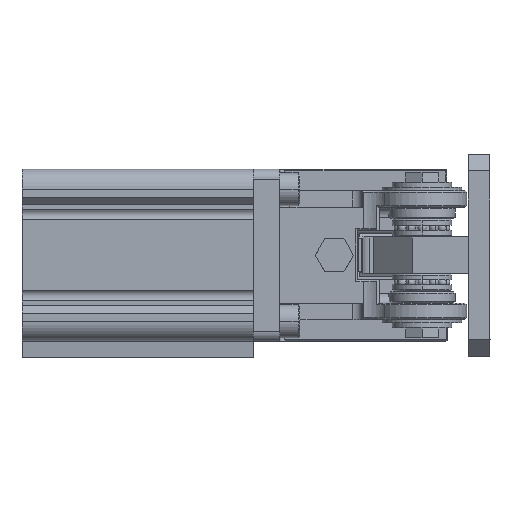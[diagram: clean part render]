
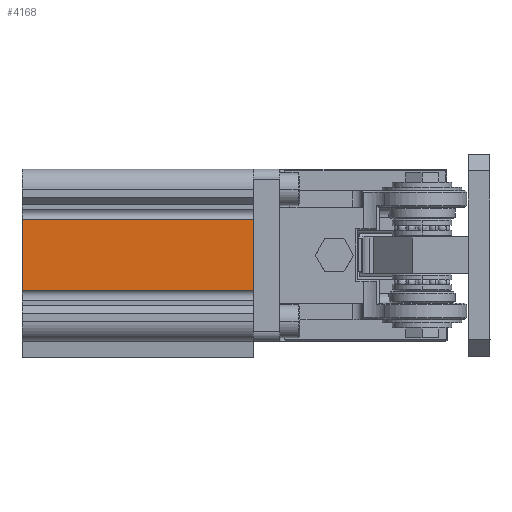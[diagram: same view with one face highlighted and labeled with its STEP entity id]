
A CAD part, left-side view. The second image highlights one B-rep face of the part: STEP entity #4168.
In plain terms, the highlighted planar face has unit normal (-1, 0, 0).
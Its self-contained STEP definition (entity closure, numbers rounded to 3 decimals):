
#422=FACE_OUTER_BOUND('',#5791,.T.);
#1466=LINE('',#25963,#2642);
#1467=LINE('',#25966,#2643);
#1468=LINE('',#25968,#2644);
#1469=LINE('',#25970,#2645);
#2642=VECTOR('',#17399,1.);
#2643=VECTOR('',#17400,1.);
#2644=VECTOR('',#17401,1.);
#2645=VECTOR('',#17402,1.);
#4168=ADVANCED_FACE('',(#422),#5094,.T.);
#5094=PLANE('',#15561);
#5791=EDGE_LOOP('',(#7010,#7011,#7012,#7013));
#7010=ORIENTED_EDGE('',*,*,#12663,.T.);
#7011=ORIENTED_EDGE('',*,*,#12664,.F.);
#7012=ORIENTED_EDGE('',*,*,#12665,.F.);
#7013=ORIENTED_EDGE('',*,*,#12666,.T.);
#11242=VERTEX_POINT('',#25964);
#11243=VERTEX_POINT('',#25965);
#11244=VERTEX_POINT('',#25967);
#11245=VERTEX_POINT('',#25969);
#12663=EDGE_CURVE('',#11242,#11243,#1466,.T.);
#12664=EDGE_CURVE('',#11244,#11243,#1467,.T.);
#12665=EDGE_CURVE('',#11245,#11244,#1468,.T.);
#12666=EDGE_CURVE('',#11245,#11242,#1469,.T.);
#15561=AXIS2_PLACEMENT_3D('',#25971,#17403,#17404);
#17399=DIRECTION('',(0.,1.,0.));
#17400=DIRECTION('',(0.,0.,1.));
#17401=DIRECTION('',(0.,1.,0.));
#17402=DIRECTION('',(0.,0.,1.));
#17403=DIRECTION('',(-1.,0.,0.));
#17404=DIRECTION('',(0.,0.,-1.));
#25963=CARTESIAN_POINT('',(202.2,0.,-15.2));
#25964=CARTESIAN_POINT('',(202.2,0.,-15.2));
#25965=CARTESIAN_POINT('',(202.2,70.,-15.2));
#25966=CARTESIAN_POINT('',(202.2,70.,-36.8));
#25967=CARTESIAN_POINT('',(202.2,70.,-36.8));
#25968=CARTESIAN_POINT('',(202.2,0.,-36.8));
#25969=CARTESIAN_POINT('',(202.2,0.,-36.8));
#25970=CARTESIAN_POINT('',(202.2,0.,-36.8));
#25971=CARTESIAN_POINT('',(202.2,64.5,-41.31));
